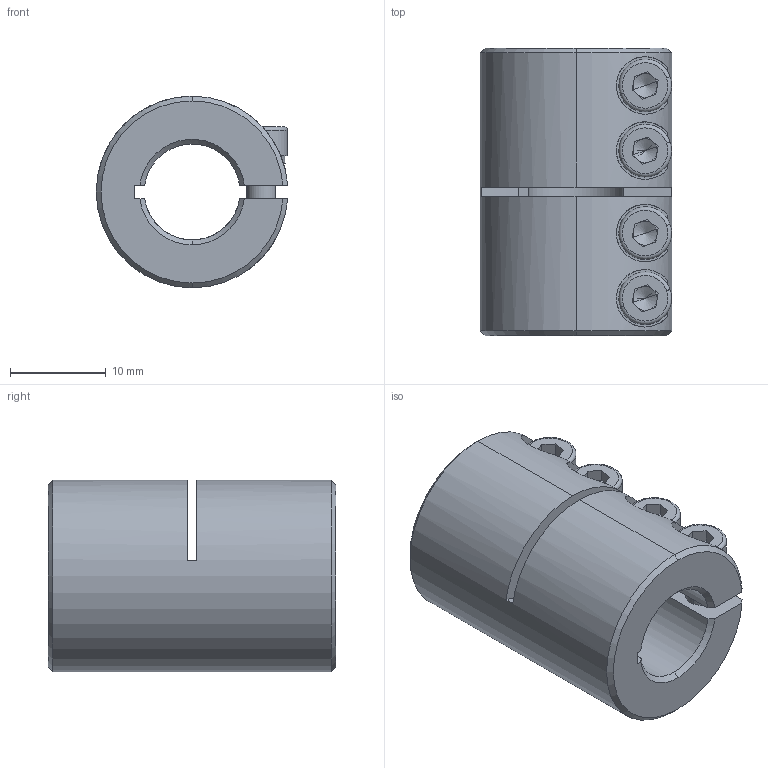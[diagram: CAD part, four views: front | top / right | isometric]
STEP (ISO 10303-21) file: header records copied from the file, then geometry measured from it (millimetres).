
FILE_DESCRIPTION (( 'STEP AP203' ), '1' );
FILE_NAME ('LL-B-D20L30-10-10.STEP', '2021-11-05T03:18:38', ( '' ), ( '' ), 'SwSTEP 2.0', 'SolidWorks 2018', '' );
FILE_SCHEMA (( 'CONFIG_CONTROL_DESIGN' ));
Length unit declared in the file: millimetre
Products named in the file (1): LL-B-D20L30-10-10
Bounding box: 19.98 x 30 x 20 mm (x, y, z)
Volume: 6553.4 mm3; surface area: 4524.4 mm2
Topology: 1 solids, 1 shells, 173 faces, 444 edges, 277 vertices
Faces by surface type: plane 87, cylinder 58, cone 20, torus 8
Entity records: 5650 total; most frequent: CARTESIAN_POINT 1319, DIRECTION 927, ORIENTED_EDGE 872, EDGE_CURVE 436, AXIS2_PLACEMENT_3D 357, VERTEX_POINT 277, LINE 213, VECTOR 213
